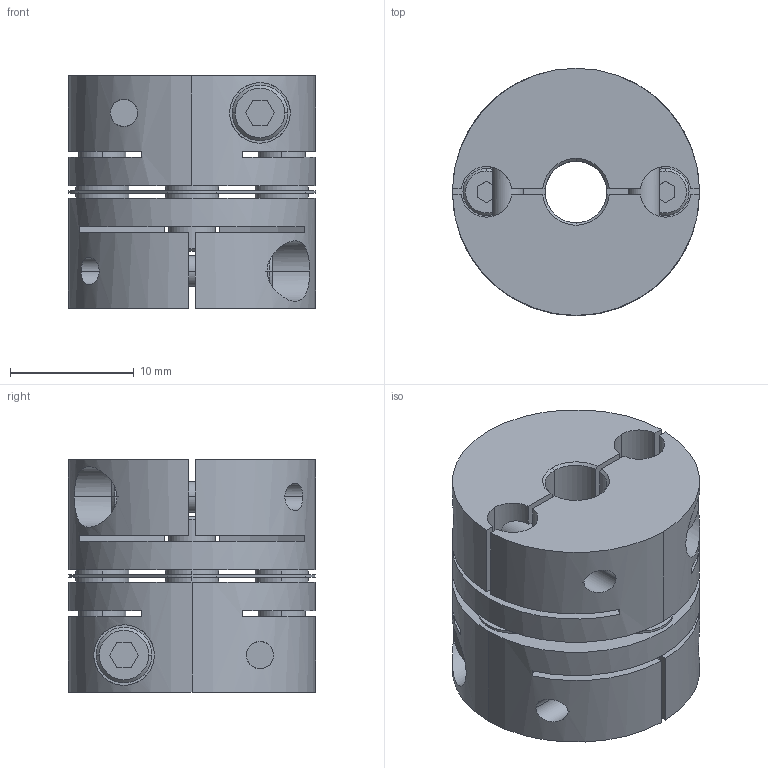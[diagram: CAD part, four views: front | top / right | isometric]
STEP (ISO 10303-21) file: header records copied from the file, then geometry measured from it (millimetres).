
FILE_DESCRIPTION((''),'2;1');
FILE_NAME('LAS-20C-5×5.stp','2011-08-10T08:54:03',(''),(''),'AutoCAD STEP 2000i','AutoCAD 2000i',', , ');
FILE_SCHEMA(('CONFIG_CONTROL_DESIGN'));
Length unit declared in the file: millimetre
Products named in the file (5): LAS-20C-4×4; 忣兜1; LA-2002-D04-1; LA-2002-D04; LAS20-ITA
Assembly tree (4 placements, depth 2):
  LAS-20C-4×4
    忣兜1
    LA-2002-D04-1
    LA-2002-D04
    LAS20-ITA
Bounding box: 20 x 20 x 18.8 mm (x, y, z)
Volume: 4652.7 mm3; surface area: 4566.9 mm2
Topology: 1 solids, 1 shells, 236 faces, 624 edges, 408 vertices
Faces by surface type: plane 112, cylinder 96, cone 28
Entity records: 8203 total; most frequent: CARTESIAN_POINT 2009, DIRECTION 1302, ORIENTED_EDGE 1248, EDGE_CURVE 624, AXIS2_PLACEMENT_3D 477, VERTEX_POINT 408, VECTOR 348, LINE 348
